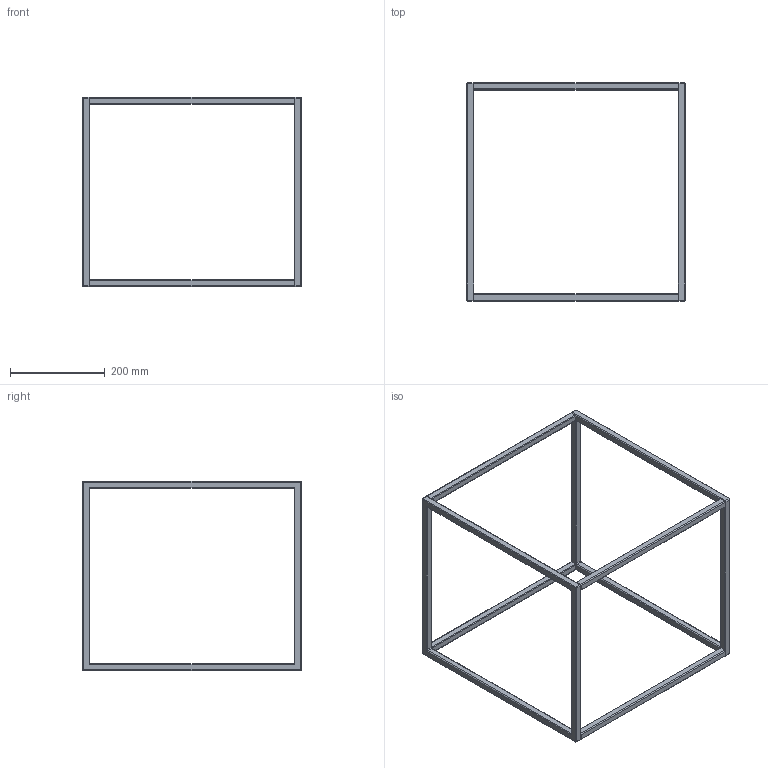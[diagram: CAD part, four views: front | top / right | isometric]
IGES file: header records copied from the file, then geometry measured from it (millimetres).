
Start section: START RECORD GO HERE.
Global section: file name: 2081NE_3D.igs; native system: DASSAULT SYSTEMES CATIA V5 R19 - www.3ds.com; preprocessor: CATIA Version 5 Release 19 SP 5 ; author: gioge; organization: LAPTOP-G94B6G74; date: 20201024.090842; units: millimetre
Bounding box: 460 x 460 x 400 mm (x, y, z)
Surface area: 286684.6 mm2 (no closed solid volume)
Topology: 0 solids, 0 shells, 156 faces, 736 edges, 736 vertices
Faces by surface type: bspline 112, plane 44
